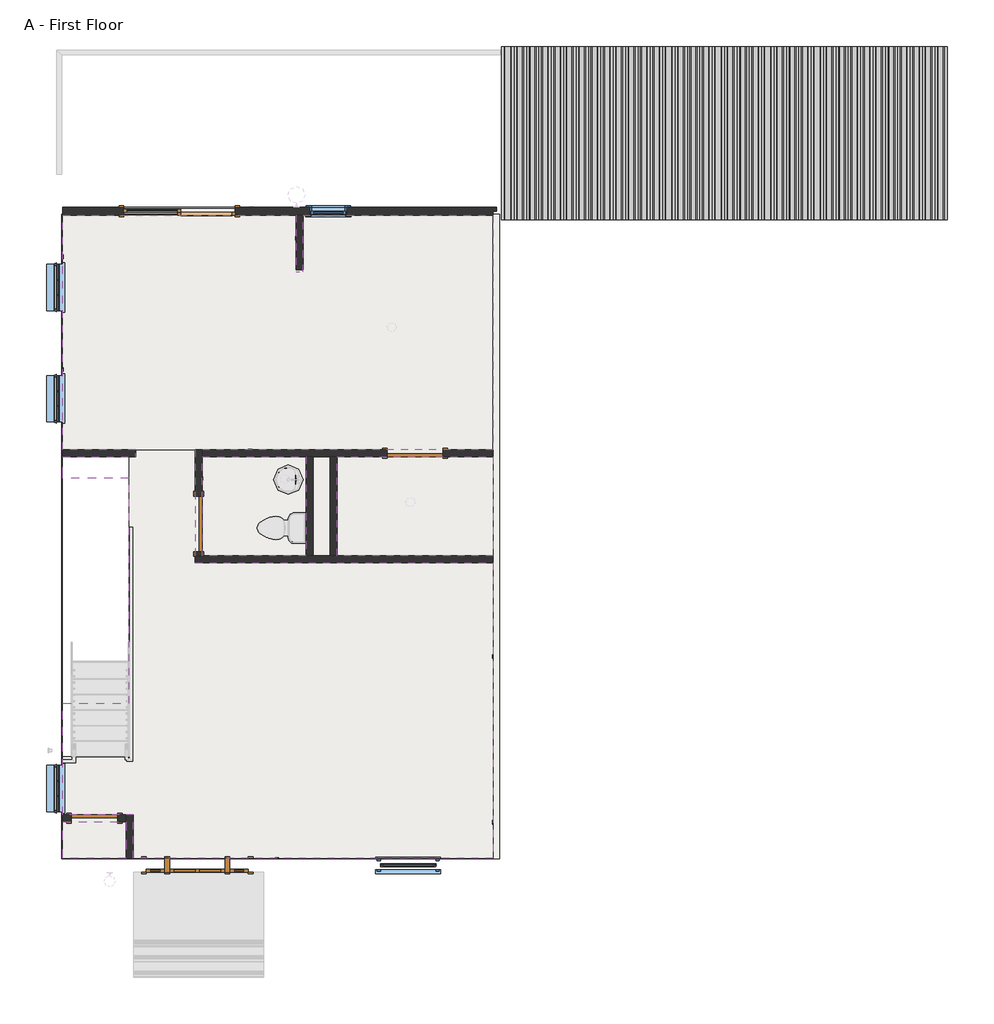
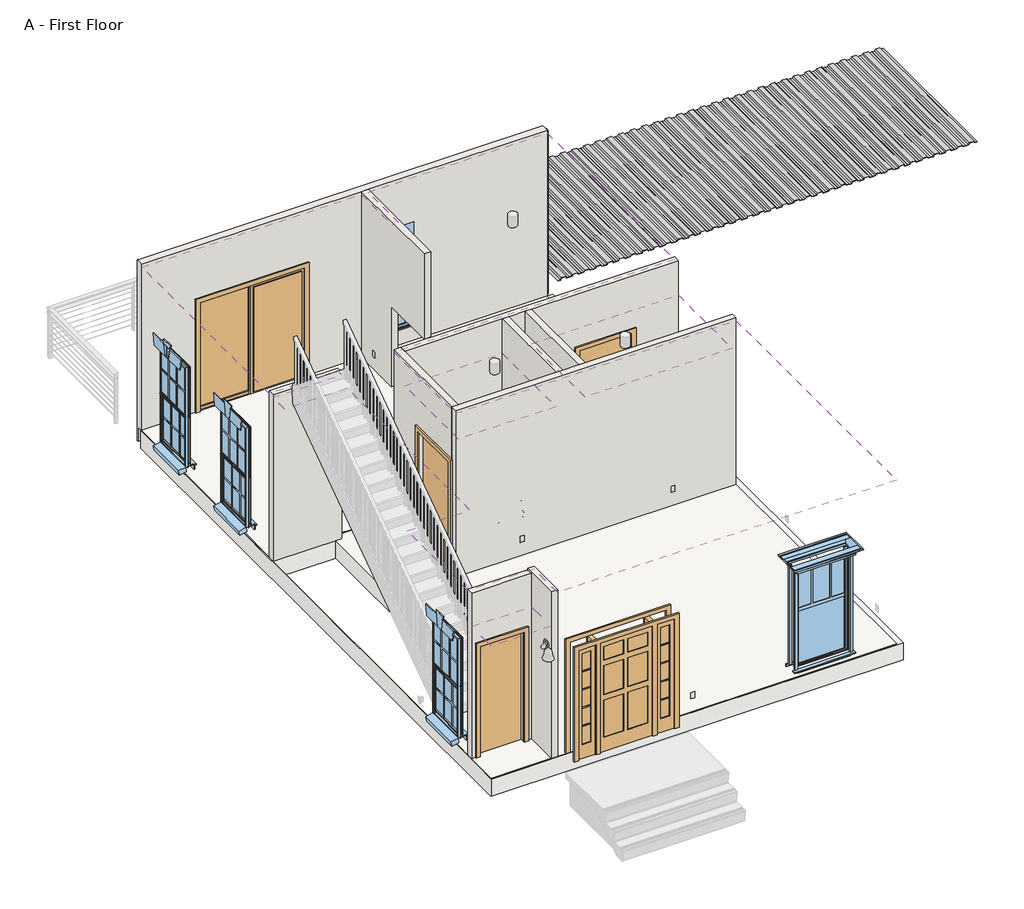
# One storey, part 1 of 3: 36 beams, 10 walls, 5 doors, 5 windows, 4 coverings, 4 slabs.
"""IFC4 building model written with IfcOpenShell, lengths in millimetres."""

from ifc_helpers import new_model, si_unit, point, frame, frame_2d, origin, origin_with_axes, place, context, project, spatial, polyline, circle_curve, trimmed, segment, composite_curve, outline, extrude, faceted_brep, transform, mapped, element, save
from components import beam_0339d567, door_cdccc48c, door_f2b275c1, door_17d80c48, door_ba367ff0, craftsman_style_single_window_l_craftsman_style_single_4874115d, window_09c4a98c, window_0bb131d8

model = new_model("IFC4")

# Units and contexts
model_context = context("Model", 3, world=origin())
ifc_project = project(units=[si_unit("LENGTHUNIT", "METRE", prefix="MILLI")], contexts=[model_context])

# Site, building, storey
site = spatial("IfcSite", under=ifc_project)
building = spatial("IfcBuilding", under=site)
storey = spatial("IfcBuildingStorey", under=building, Name="A - First Floor", Elevation=0.0)

# Beams
placement = place(None, origin())
beam_shape = beam_0339d567(model_context)
element("IfcBeam", 1, ObjectType="B-Deck_Single_Flute_3d_14388 : B-Deck_Single_Flute_3d_14388", at=placement, inside=storey, context=model_context, shape_type="MappedRepresentation", body=[
    mapped(beam_shape, transform((-3973.0379486, 4777.1460538, 290.0036934), x_axis=(0.0, -1.0, 0.0), y_axis=(1.0, 0.0, 0.0), z_axis=(0.0, 0.0, 1.0))),
])
element("IfcBeam", 2, ObjectType="B-Deck_Single_Flute_3d_14388 : B-Deck_Single_Flute_3d_14388", at=placement, inside=storey, context=model_context, shape_type="MappedRepresentation", body=[
    mapped(beam_shape, transform((-3769.8379486, 4777.1460538, 290.0036934), x_axis=(0.0, -1.0, 0.0), y_axis=(1.0, 0.0, 0.0), z_axis=(0.0, 0.0, 1.0))),
])
element("IfcBeam", 3, ObjectType="B-Deck_Single_Flute_3d_14388 : B-Deck_Single_Flute_3d_14388", at=placement, inside=storey, context=model_context, shape_type="MappedRepresentation", body=[
    mapped(beam_shape, transform((-3566.6379486, 4777.1460538, 290.0036934), x_axis=(0.0, -1.0, 0.0), y_axis=(1.0, 0.0, 0.0), z_axis=(0.0, 0.0, 1.0))),
])
element("IfcBeam", 4, ObjectType="B-Deck_Single_Flute_3d_14388 : B-Deck_Single_Flute_3d_14388", at=placement, inside=storey, context=model_context, shape_type="MappedRepresentation", body=[
    mapped(beam_shape, transform((-3363.4379486, 4777.1460538, 290.0036934), x_axis=(0.0, -1.0, 0.0), y_axis=(1.0, 0.0, 0.0), z_axis=(0.0, 0.0, 1.0))),
])
element("IfcBeam", 5, ObjectType="B-Deck_Single_Flute_3d_14388 : B-Deck_Single_Flute_3d_14388", at=placement, inside=storey, context=model_context, shape_type="MappedRepresentation", body=[
    mapped(beam_shape, transform((-3160.2379486, 4777.1460538, 290.0036934), x_axis=(0.0, -1.0, 0.0), y_axis=(1.0, 0.0, 0.0), z_axis=(0.0, 0.0, 1.0))),
])
element("IfcBeam", 6, ObjectType="B-Deck_Single_Flute_3d_14388 : B-Deck_Single_Flute_3d_14388", at=placement, inside=storey, context=model_context, shape_type="MappedRepresentation", body=[
    mapped(beam_shape, transform((-2957.0379486, 4777.1460538, 290.0036934), x_axis=(0.0, -1.0, 0.0), y_axis=(1.0, 0.0, 0.0), z_axis=(0.0, 0.0, 1.0))),
])
element("IfcBeam", 7, ObjectType="B-Deck_Single_Flute_3d_14388 : B-Deck_Single_Flute_3d_14388", at=placement, inside=storey, context=model_context, shape_type="MappedRepresentation", body=[
    mapped(beam_shape, transform((-2753.8379486, 4777.1460538, 290.0036934), x_axis=(0.0, -1.0, 0.0), y_axis=(1.0, 0.0, 0.0), z_axis=(0.0, 0.0, 1.0))),
])
element("IfcBeam", 8, ObjectType="B-Deck_Single_Flute_3d_14388 : B-Deck_Single_Flute_3d_14388", at=placement, inside=storey, context=model_context, shape_type="MappedRepresentation", body=[
    mapped(beam_shape, transform((-2550.6379486, 4777.1460538, 290.0036934), x_axis=(0.0, -1.0, 0.0), y_axis=(1.0, 0.0, 0.0), z_axis=(0.0, 0.0, 1.0))),
])
element("IfcBeam", 9, ObjectType="B-Deck_Single_Flute_3d_14388 : B-Deck_Single_Flute_3d_14388", at=placement, inside=storey, context=model_context, shape_type="MappedRepresentation", body=[
    mapped(beam_shape, transform((-2347.4379486, 4777.1460538, 290.0036934), x_axis=(0.0, -1.0, 0.0), y_axis=(1.0, 0.0, 0.0), z_axis=(0.0, 0.0, 1.0))),
])
element("IfcBeam", 10, ObjectType="B-Deck_Single_Flute_3d_14388 : B-Deck_Single_Flute_3d_14388", at=placement, inside=storey, context=model_context, shape_type="MappedRepresentation", body=[
    mapped(beam_shape, transform((-2144.2379486, 4777.1460538, 290.0036934), x_axis=(0.0, -1.0, 0.0), y_axis=(1.0, 0.0, 0.0), z_axis=(0.0, 0.0, 1.0))),
])
element("IfcBeam", 11, ObjectType="B-Deck_Single_Flute_3d_14388 : B-Deck_Single_Flute_3d_14388", at=placement, inside=storey, context=model_context, shape_type="MappedRepresentation", body=[
    mapped(beam_shape, transform((-1941.0379486, 4777.1460538, 290.0036934), x_axis=(0.0, -1.0, 0.0), y_axis=(1.0, 0.0, 0.0), z_axis=(0.0, 0.0, 1.0))),
])
element("IfcBeam", 12, ObjectType="B-Deck_Single_Flute_3d_14388 : B-Deck_Single_Flute_3d_14388", at=placement, inside=storey, context=model_context, shape_type="MappedRepresentation", body=[
    mapped(beam_shape, transform((-1737.8379486, 4777.1460538, 290.0036934), x_axis=(0.0, -1.0, 0.0), y_axis=(1.0, 0.0, 0.0), z_axis=(0.0, 0.0, 1.0))),
])
element("IfcBeam", 13, ObjectType="B-Deck_Single_Flute_3d_14388 : B-Deck_Single_Flute_3d_14388", at=placement, inside=storey, context=model_context, shape_type="MappedRepresentation", body=[
    mapped(beam_shape, transform((-1534.6379486, 4777.1460538, 290.0036934), x_axis=(0.0, -1.0, 0.0), y_axis=(1.0, 0.0, 0.0), z_axis=(0.0, 0.0, 1.0))),
])
element("IfcBeam", 14, ObjectType="B-Deck_Single_Flute_3d_14388 : B-Deck_Single_Flute_3d_14388", at=placement, inside=storey, context=model_context, shape_type="MappedRepresentation", body=[
    mapped(beam_shape, transform((-1331.4379486, 4777.1460538, 290.0036934), x_axis=(0.0, -1.0, 0.0), y_axis=(1.0, 0.0, 0.0), z_axis=(0.0, 0.0, 1.0))),
])
element("IfcBeam", 15, ObjectType="B-Deck_Single_Flute_3d_14388 : B-Deck_Single_Flute_3d_14388", at=placement, inside=storey, context=model_context, shape_type="MappedRepresentation", body=[
    mapped(beam_shape, transform((-1128.2379486, 4777.1460538, 290.0036934), x_axis=(0.0, -1.0, 0.0), y_axis=(1.0, 0.0, 0.0), z_axis=(0.0, 0.0, 1.0))),
])
element("IfcBeam", 16, ObjectType="B-Deck_Single_Flute_3d_14388 : B-Deck_Single_Flute_3d_14388", at=placement, inside=storey, context=model_context, shape_type="MappedRepresentation", body=[
    mapped(beam_shape, transform((-925.0379486, 4777.1460538, 290.0036934), x_axis=(0.0, -1.0, 0.0), y_axis=(1.0, 0.0, 0.0), z_axis=(0.0, 0.0, 1.0))),
])
element("IfcBeam", 17, ObjectType="B-Deck_Single_Flute_3d_14388 : B-Deck_Single_Flute_3d_14388", at=placement, inside=storey, context=model_context, shape_type="MappedRepresentation", body=[
    mapped(beam_shape, transform((-721.8379486, 4777.1460538, 290.0036934), x_axis=(0.0, -1.0, 0.0), y_axis=(1.0, 0.0, 0.0), z_axis=(0.0, 0.0, 1.0))),
])
element("IfcBeam", 18, ObjectType="B-Deck_Single_Flute_3d_14388 : B-Deck_Single_Flute_3d_14388", at=placement, inside=storey, context=model_context, shape_type="MappedRepresentation", body=[
    mapped(beam_shape, transform((-518.6379486, 4777.1460538, 290.0036934), x_axis=(0.0, -1.0, 0.0), y_axis=(1.0, 0.0, 0.0), z_axis=(0.0, 0.0, 1.0))),
])
element("IfcBeam", 19, ObjectType="B-Deck_Single_Flute_3d_14388 : B-Deck_Single_Flute_3d_14388", at=placement, inside=storey, context=model_context, shape_type="MappedRepresentation", body=[
    mapped(beam_shape, transform((-315.4379486, 4777.1460538, 290.0036934), x_axis=(0.0, -1.0, 0.0), y_axis=(1.0, 0.0, 0.0), z_axis=(0.0, 0.0, 1.0))),
])
element("IfcBeam", 20, ObjectType="B-Deck_Single_Flute_3d_14388 : B-Deck_Single_Flute_3d_14388", at=placement, inside=storey, context=model_context, shape_type="MappedRepresentation", body=[
    mapped(beam_shape, transform((-112.2379486, 4777.1460538, 290.0036934), x_axis=(0.0, -1.0, 0.0), y_axis=(1.0, 0.0, 0.0), z_axis=(0.0, 0.0, 1.0))),
])
element("IfcBeam", 21, ObjectType="B-Deck_Single_Flute_3d_14388 : B-Deck_Single_Flute_3d_14388", at=placement, inside=storey, context=model_context, shape_type="MappedRepresentation", body=[
    mapped(beam_shape, transform((90.9620514, 4777.1460538, 290.0036934), x_axis=(0.0, -1.0, 0.0), y_axis=(1.0, 0.0, 0.0), z_axis=(0.0, 0.0, 1.0))),
])
element("IfcBeam", 22, ObjectType="B-Deck_Single_Flute_3d_14388 : B-Deck_Single_Flute_3d_14388", at=placement, inside=storey, context=model_context, shape_type="MappedRepresentation", body=[
    mapped(beam_shape, transform((294.1620514, 4777.1460538, 290.0036934), x_axis=(0.0, -1.0, 0.0), y_axis=(1.0, 0.0, 0.0), z_axis=(0.0, 0.0, 1.0))),
])
element("IfcBeam", 23, ObjectType="B-Deck_Single_Flute_3d_14388 : B-Deck_Single_Flute_3d_14388", at=placement, inside=storey, context=model_context, shape_type="MappedRepresentation", body=[
    mapped(beam_shape, transform((497.3620514, 4777.1460538, 290.0036934), x_axis=(0.0, -1.0, 0.0), y_axis=(1.0, 0.0, 0.0), z_axis=(0.0, 0.0, 1.0))),
])
element("IfcBeam", 24, ObjectType="B-Deck_Single_Flute_3d_14388 : B-Deck_Single_Flute_3d_14388", at=placement, inside=storey, context=model_context, shape_type="MappedRepresentation", body=[
    mapped(beam_shape, transform((700.5620514, 4777.1460538, 290.0036934), x_axis=(0.0, -1.0, 0.0), y_axis=(1.0, 0.0, 0.0), z_axis=(0.0, 0.0, 1.0))),
])
element("IfcBeam", 25, ObjectType="B-Deck_Single_Flute_3d_14388 : B-Deck_Single_Flute_3d_14388", at=placement, inside=storey, context=model_context, shape_type="MappedRepresentation", body=[
    mapped(beam_shape, transform((903.7620514, 4777.1460538, 290.0036934), x_axis=(0.0, -1.0, 0.0), y_axis=(1.0, 0.0, 0.0), z_axis=(0.0, 0.0, 1.0))),
])
element("IfcBeam", 26, ObjectType="B-Deck_Single_Flute_3d_14388 : B-Deck_Single_Flute_3d_14388", at=placement, inside=storey, context=model_context, shape_type="MappedRepresentation", body=[
    mapped(beam_shape, transform((1106.9620514, 4777.1460538, 290.0036934), x_axis=(0.0, -1.0, 0.0), y_axis=(1.0, 0.0, 0.0), z_axis=(0.0, 0.0, 1.0))),
])
element("IfcBeam", 27, ObjectType="B-Deck_Single_Flute_3d_14388 : B-Deck_Single_Flute_3d_14388", at=placement, inside=storey, context=model_context, shape_type="MappedRepresentation", body=[
    mapped(beam_shape, transform((1310.1620514, 4777.1460538, 290.0036934), x_axis=(0.0, -1.0, 0.0), y_axis=(1.0, 0.0, 0.0), z_axis=(0.0, 0.0, 1.0))),
])
element("IfcBeam", 28, ObjectType="B-Deck_Single_Flute_3d_14388 : B-Deck_Single_Flute_3d_14388", at=placement, inside=storey, context=model_context, shape_type="MappedRepresentation", body=[
    mapped(beam_shape, transform((1513.3620514, 4777.1460538, 290.0036934), x_axis=(0.0, -1.0, 0.0), y_axis=(1.0, 0.0, 0.0), z_axis=(0.0, 0.0, 1.0))),
])
element("IfcBeam", 29, ObjectType="B-Deck_Single_Flute_3d_14388 : B-Deck_Single_Flute_3d_14388", at=placement, inside=storey, context=model_context, shape_type="MappedRepresentation", body=[
    mapped(beam_shape, transform((1716.5620514, 4777.1460538, 290.0036934), x_axis=(0.0, -1.0, 0.0), y_axis=(1.0, 0.0, 0.0), z_axis=(0.0, 0.0, 1.0))),
])
element("IfcBeam", 30, ObjectType="B-Deck_Single_Flute_3d_14388 : B-Deck_Single_Flute_3d_14388", at=placement, inside=storey, context=model_context, shape_type="MappedRepresentation", body=[
    mapped(beam_shape, transform((1919.7620514, 4777.1460538, 290.0036934), x_axis=(0.0, -1.0, 0.0), y_axis=(1.0, 0.0, 0.0), z_axis=(0.0, 0.0, 1.0))),
])
element("IfcBeam", 31, ObjectType="B-Deck_Single_Flute_3d_14388 : B-Deck_Single_Flute_3d_14388", at=placement, inside=storey, context=model_context, shape_type="MappedRepresentation", body=[
    mapped(beam_shape, transform((2122.9620514, 4777.1460538, 290.0036934), x_axis=(0.0, -1.0, 0.0), y_axis=(1.0, 0.0, 0.0), z_axis=(0.0, 0.0, 1.0))),
])
element("IfcBeam", 32, ObjectType="B-Deck_Single_Flute_3d_14388 : B-Deck_Single_Flute_3d_14388", at=placement, inside=storey, context=model_context, shape_type="MappedRepresentation", body=[
    mapped(beam_shape, transform((2326.1620514, 4777.1460538, 290.0036934), x_axis=(0.0, -1.0, 0.0), y_axis=(1.0, 0.0, 0.0), z_axis=(0.0, 0.0, 1.0))),
])
element("IfcBeam", 33, ObjectType="B-Deck_Single_Flute_3d_14388 : B-Deck_Single_Flute_3d_14388", at=placement, inside=storey, context=model_context, shape_type="MappedRepresentation", body=[
    mapped(beam_shape, transform((2529.3620514, 4777.1460538, 290.0036934), x_axis=(0.0, -1.0, 0.0), y_axis=(1.0, 0.0, 0.0), z_axis=(0.0, 0.0, 1.0))),
])
element("IfcBeam", 34, ObjectType="B-Deck_Single_Flute_3d_14388 : B-Deck_Single_Flute_3d_14388", at=placement, inside=storey, context=model_context, shape_type="MappedRepresentation", body=[
    mapped(beam_shape, transform((2732.5620514, 4777.1460538, 290.0036934), x_axis=(0.0, -1.0, 0.0), y_axis=(1.0, 0.0, 0.0), z_axis=(0.0, 0.0, 1.0))),
])
element("IfcBeam", 35, ObjectType="B-Deck_Single_Flute_3d_14388 : B-Deck_Single_Flute_3d_14388", at=placement, inside=storey, context=model_context, shape_type="MappedRepresentation", body=[
    mapped(beam_shape, transform((2935.7620514, 4777.1460538, 290.0036934), x_axis=(0.0, -1.0, 0.0), y_axis=(1.0, 0.0, 0.0), z_axis=(0.0, 0.0, 1.0))),
])
element("IfcBeam", 36, ObjectType="B-Deck_Single_Flute_3d_14388 : B-Deck_Single_Flute_3d_14388", at=placement, inside=storey, context=model_context, shape_type="MappedRepresentation", body=[
    mapped(beam_shape, transform((3138.9620514, 4777.1460538, 290.0036934), x_axis=(0.0, -1.0, 0.0), y_axis=(1.0, 0.0, 0.0), z_axis=(0.0, 0.0, 1.0))),
])

# Coverings
element("IfcCovering", 37, ObjectType="GWB on Furring", at=placement, inside=storey, context=model_context, shape_type="SweptSolid", body=[
    extrude(outline(polyline([(-7287.7379486, -2157.0539462), (-8989.5379486, -2157.0539462), (-8989.5379486, -531.4539462), (-7287.7379486, -531.4539462), (-7287.7379486, -2157.0539462)]), holes=[composite_curve([segment(trimmed(circle_curve(frame_2d((-7630.6379486, -899.7539462)), 76.2), [point((-7706.8379486, -899.7539462))], [point((-7554.4379486, -899.7539462))], True, "CARTESIAN"), True, "CONTINUOUS"), segment(trimmed(circle_curve(frame_2d((-7630.6379486, -899.7539462)), 76.2), [point((-7554.4379486, -899.7539462))], [point((-7706.8379486, -899.7539462))], True, "CARTESIAN"), True, "CONTINUOUS")], self_intersect=False)]), frame((0.0, 0.0, 2438.4), z_axis=(0.0, 0.0, 1.0), x_axis=(1.0, 0.0, 0.0)), (0.0, 0.0, 1.0), 31.75),
])
element("IfcCovering", 38, ObjectType="GWB on Furring", at=placement, inside=storey, context=model_context, shape_type="SweptSolid", body=[
    extrude(outline(polyline([(-4217.5129486, -531.4539462), (-4217.5129486, -2157.0539462), (-6779.7379486, -2157.0539462), (-6779.7379486, -531.4539462), (-4217.5129486, -531.4539462)]), holes=[composite_curve([segment(trimmed(circle_curve(frame_2d((-5573.2379486, -1280.7539462)), 76.2), [point((-5649.4379486, -1280.7539462))], [point((-5497.0379486, -1280.7539462))], True, "CARTESIAN"), True, "CONTINUOUS"), segment(trimmed(circle_curve(frame_2d((-5573.2379486, -1280.7539462)), 76.2), [point((-5497.0379486, -1280.7539462))], [point((-5649.4379486, -1280.7539462))], True, "CARTESIAN"), True, "CONTINUOUS")], self_intersect=False)]), frame((0.0, 0.0, 2438.4), z_axis=(0.0, 0.0, 1.0), x_axis=(1.0, 0.0, 0.0)), (0.0, 0.0, 1.0), 31.75),
])
element("IfcCovering", 39, ObjectType="GWB on Furring", at=placement, inside=storey, context=model_context, shape_type="SweptSolid", body=[
    extrude(outline(polyline([(-9103.8379486, -2271.3539462), (-4217.5129486, -2271.3539462), (-4217.5129486, -7122.7539462), (-10126.1879486, -7122.7539462), (-10126.1879486, -6411.5539462), (-11281.8879486, -6411.5539462), (-11281.8879486, -4582.7539462), (-10189.6879486, -4582.7539462), (-10189.6879486, -887.0539462), (-11281.8879486, -887.0539462), (-11281.8879486, -531.4539462), (-10084.9129486, -531.4539462), (-10084.9129486, -417.1539462), (-11281.8879486, -417.1539462), (-11281.8879486, 3430.9460538), (-7452.8379486, 3430.9460538), (-7452.8379486, 2503.8460538), (-7338.5379486, 2503.8460538), (-7338.5379486, 3430.9460538), (-4217.5129486, 3430.9460538), (-4217.5129486, -417.1539462), (-9103.8379486, -417.1539462), (-9103.8379486, -2271.3539462)]), holes=[composite_curve([segment(trimmed(circle_curve(frame_2d((-5878.0379486, 1592.6210538)), 76.2), [point((-5954.2379486, 1592.6210538))], [point((-5801.8379486, 1592.6210538))], True, "CARTESIAN"), True, "CONTINUOUS"), segment(trimmed(circle_curve(frame_2d((-5878.0379486, 1592.6210538)), 76.2), [point((-5801.8379486, 1592.6210538))], [point((-5954.2379486, 1592.6210538))], True, "CARTESIAN"), True, "CONTINUOUS")], self_intersect=False)]), frame((0.0, 0.0, 3022.6), z_axis=(0.0, 0.0, 1.0), x_axis=(1.0, 0.0, 0.0)), (0.0, 0.0, 1.0), 31.75),
])
element("IfcCovering", 40, ObjectType="GWB on Furring", at=placement, inside=storey, context=model_context, shape_type="SweptSolid", body=[
    extrude(outline(polyline([(-10240.4879486, -6525.8539462), (-10240.4879486, -7122.7539462), (-11281.8879486, -7122.7539462), (-11281.8879486, -6525.8539462), (-10240.4879486, -6525.8539462)])), frame((0.0, 0.0, 2438.4), z_axis=(0.0, 0.0, 1.0), x_axis=(1.0, 0.0, 0.0)), (0.0, 0.0, 1.0), 31.75),
])

# Doors
door_shape = door_cdccc48c(model_context)
element("IfcDoor", 41, ObjectType="Door-Double-Sliding : 72\" x 80\"", at=placement, inside=storey, context=model_context, shape_type="MappedRepresentation", body=[
    mapped(door_shape, transform((-9367.3629486, 3624.6210538, 0.0), x_axis=(-1.0, 0.0, 0.0), y_axis=(0.0, -1.0, 0.0), z_axis=(0.0, 0.0, 1.0))),
])
door_2_shape = door_f2b275c1(model_context)
element("IfcDoor", 42, ObjectType="Single-Flush : 30\" x 80\"", at=placement, inside=storey, context=model_context, shape_type="MappedRepresentation", body=[
    mapped(door_2_shape, transform((-10761.1879486, -6468.7039462, 0.0), x_axis=(-1.0, 0.0, 0.0), y_axis=(0.0, -1.0, 0.0), z_axis=(0.0, 0.0, 1.0))),
])
door_3_shape = door_17d80c48(model_context)
element("IfcDoor", 43, ObjectType="Single-Flush : 36\" x 80\"", at=placement, inside=storey, context=model_context, shape_type="MappedRepresentation", body=[
    mapped(door_3_shape, transform((-9046.6879486, -1636.3539462, 0.0), x_axis=(0.0, -1.0, 0.0), y_axis=(1.0, 0.0, 0.0), z_axis=(0.0, 0.0, 1.0))),
])
element("IfcDoor", 44, ObjectType="Single-Flush : 36\" x 80\"", at=placement, inside=storey, context=model_context, shape_type="MappedRepresentation", body=[
    mapped(door_3_shape, transform((-5497.0379486, -474.3039462, 0.0), x_axis=(-1.0, 0.0, 0.0), y_axis=(0.0, -1.0, 0.0), z_axis=(0.0, 0.0, 1.0))),
])
door_4_shape = door_ba367ff0(model_context)
element("IfcDoor", 45, ObjectType="Single-Raised Panel with Sidelights : 36\" x 80\" 2", at=placement, inside=storey, context=model_context, shape_type="MappedRepresentation", body=[
    mapped(door_4_shape, transform((-9072.0879486, -7238.6414462, 0.0), x_axis=(-1.0, 0.0, 0.0), y_axis=(0.0, -1.0, 0.0), z_axis=(0.0, 0.0, 1.0))),
])

# Slabs
element("IfcSlab", 46, ObjectType="Wood Truss  Joist 12\"", at=placement, inside=storey, context=model_context, shape_type="Brep", body=[
    faceted_brep([(-4112.7379486, 3443.6460538, -320.675), (-4112.7379486, -7122.7539462, -320.675), (-4112.7379486, -7135.4539462, -320.675), (-11294.5879486, -7135.4539462, -320.675), (-11294.5879486, -7122.7539462, -320.675), (-11294.5879486, 3443.6460538, -320.675), (-11281.8879486, 3443.6460538, -320.675), (-4217.5129486, 3443.6460538, -320.675), (-11142.1879486, -5332.0539462, -320.675), (-10189.6879486, -5332.0539462, -320.675), (-10189.6879486, -531.4539462, -320.675), (-11281.8879486, -531.4539462, -320.675), (-11281.8879486, -5459.0539462, -320.675), (-11142.1879486, -5459.0539462, -320.675), (-4112.7379486, -7135.4539462, 0.0), (-4112.7379486, -7122.7539462, 0.0), (-4112.7379486, 3443.6460538, 0.0), (-4217.5129486, 3443.6460538, 0.0), (-11281.8879486, 3443.6460538, 0.0), (-11294.5879486, 3443.6460538, 0.0), (-11294.5879486, -7122.7539462, 0.0), (-11294.5879486, -7135.4539462, 0.0), (-9910.2879486, -7135.4539462, 0.0), (-8233.8879486, -7135.4539462, 0.0), (-10189.6879486, -5332.0539462, 0.0), (-11142.1879486, -5332.0539462, 0.0), (-11142.1879486, -5459.0539462, 0.0), (-11281.8879486, -5459.0539462, 0.0), (-11281.8879486, -531.4539462, 0.0), (-10189.6879486, -531.4539462, 0.0)], [[[0, 1, 2, 3, 4, 5, 6, 7], [8, 9, 10, 11, 12, 13]], [[14, 15, 16, 17, 18, 19, 20, 21, 22, 23], [24, 25, 26, 27, 28, 29]], [[2, 1, 0, 16, 15, 14]], [[3, 2, 14, 23, 22, 21]], [[5, 4, 3, 21, 20, 19]], [[0, 7, 6, 5, 19, 18, 17, 16]], [[8, 25, 24, 9]], [[9, 24, 29, 10]], [[10, 29, 28, 11]], [[11, 28, 27, 12]], [[12, 27, 26, 13]], [[25, 8, 13, 26]]]),
])
element("IfcSlab", 47, ObjectType="Carpet Finish - 1/8\"", at=placement, inside=storey, context=model_context, shape_type="SweptSolid", body=[
    extrude(outline(polyline([(-10084.9129486, -531.4539462), (-10084.9129486, -417.1539462), (-9103.8379486, -417.1539462), (-9103.8379486, -1179.1539462), (-8989.5379486, -1179.1539462), (-8989.5379486, -2093.5539462), (-9103.8379486, -2093.5539462), (-9103.8379486, -2271.3539462), (-4217.5129486, -2271.3539462), (-4217.5129486, -7122.7539462), (-10126.1879486, -7122.7539462), (-10126.1879486, -6411.5539462), (-10380.1879486, -6411.5539462), (-10380.1879486, -6525.8539462), (-10240.4879486, -6525.8539462), (-10240.4879486, -7122.7539462), (-11281.8879486, -7122.7539462), (-11281.8879486, -6525.8539462), (-11142.1879486, -6525.8539462), (-11142.1879486, -6411.5539462), (-11281.8879486, -6411.5539462), (-11281.8879486, -5459.0539462), (-11142.1879486, -5459.0539462), (-11142.1879486, -5332.0539462), (-10189.6879486, -5332.0539462), (-10189.6879486, -531.4539462), (-10084.9129486, -531.4539462)])), origin_with_axes(), (0.0, 0.0, 1.0), 3.175),
])
element("IfcSlab", 48, ObjectType="Ceramic Tile - 3/4\"", at=placement, inside=storey, context=model_context, shape_type="SweptSolid", body=[
    extrude(outline(polyline([(-11281.8879486, -417.1539462), (-11281.8879486, 3430.9460538), (-7452.8379486, 3430.9460538), (-7452.8379486, 2659.4210538), (-7324.1464925, 2659.4210538), (-7324.1464925, 3532.5460538), (-4225.3464925, 3532.5460538), (-4225.3464925, -429.8539462), (-5038.1464925, -429.8539462), (-5038.1464925, -531.4539462), (-4217.5129486, -531.4539462), (-4217.5129486, -2157.0539462), (-6779.7379486, -2157.0539462), (-6779.7379486, -531.4539462), (-5954.2379486, -531.4539462), (-5954.2379486, -417.1539462), (-11281.8879486, -417.1539462)])), origin_with_axes(), (0.0, 0.0, 1.0), 19.05),
])
element("IfcSlab", 49, ObjectType="Ceramic Tile - 3/4\"", at=placement, inside=storey, context=model_context, shape_type="SweptSolid", body=[
    extrude(outline(polyline([(-7287.7379486, -531.4539462), (-7287.7379486, -2157.0539462), (-8989.5379486, -2157.0539462), (-8989.5379486, -531.4539462), (-7287.7379486, -531.4539462)])), origin_with_axes(), (0.0, 0.0, 1.0), 19.05),
])

# Walls
element("IfcWall", 50, ObjectType="Exterior - Wood Siding on Wood Stud", at=placement, inside=storey, context=model_context, shape_type="Brep", body=[
    faceted_brep([(-4217.5129486, 3430.9460538, 3073.4), (-7338.5379486, 3430.9460538, 3073.4), (-7452.8379486, 3430.9460538, 3073.4), (-11281.8879486, 3430.9460538, 3073.4), (-11281.8879486, 3430.9460538, 0.0), (-10281.7629486, 3430.9460538, 0.0), (-10281.7629486, 3430.9460538, 2032.0), (-8452.9629486, 3430.9460538, 2032.0), (-8452.9629486, 3430.9460538, 0.0), (-7452.8379486, 3430.9460538, 0.0), (-7338.5379486, 3430.9460538, 0.0), (-4217.5129486, 3430.9460538, 0.0), (-4217.5129486, 3430.9460538, 3003.55), (-4217.5129486, 3430.9460538, 3051.175), (-7224.2379486, 3430.9460538, 2133.6), (-6614.6379486, 3430.9460538, 2133.6), (-6614.6379486, 3430.9460538, 304.8), (-7224.2379486, 3430.9460538, 304.8), (-11281.8879486, 3564.2960538, 3073.4), (-11262.8379486, 3564.2960538, 3073.4), (-4217.5129486, 3564.2960538, 3073.4), (-4217.5129486, 3564.2960538, 3003.55), (-4157.1879486, 3564.2960538, 3003.55), (-4157.1879486, 3564.2960538, 304.8), (-4157.1879486, 3564.2960538, -258.7625), (-11281.8879486, 3564.2960538, -258.7625), (-11281.8879486, 3564.2960538, 0.0), (-11281.8879486, 3564.2960538, 3051.175), (-8452.9629486, 3564.2960538, 0.0), (-8452.9629486, 3564.2960538, 2032.0), (-10281.7629486, 3564.2960538, 2032.0), (-10281.7629486, 3564.2960538, 0.0), (-7224.2379486, 3564.2960538, 2133.6), (-7224.2379486, 3564.2960538, 304.8), (-6614.6379486, 3564.2960538, 304.8), (-6614.6379486, 3564.2960538, 2133.6), (-4157.1879486, 3497.6210538, 0.0), (-4217.5129486, 3497.6210538, 0.0), (-4217.5129486, 3443.6460538, 0.0), (-8452.9629486, 3545.2460538, 0.0), (-4157.1879486, 3545.2460538, 0.0), (-11281.8879486, 3443.6460538, 0.0), (-11281.8879486, 3497.6210538, 0.0), (-11281.8879486, 3545.2460538, 0.0), (-10281.7629486, 3545.2460538, 0.0), (-11281.8879486, 3545.2460538, -258.7625), (-4157.1879486, 3545.2460538, -258.7625), (-4217.5129486, 3497.6210538, 609.6), (-4217.5129486, 3497.6210538, 3003.55), (-4157.1879486, 3497.6210538, 3003.55), (-4157.1879486, 3497.6210538, 609.6)], [[[0, 1, 2, 3, 4, 5, 6, 7, 8, 9, 10, 11, 12, 13], [14, 15, 16, 17]], [[18, 19, 20, 21, 22, 23, 24, 25, 26, 27], [28, 29, 30, 31], [32, 33, 34, 35]], [[3, 2, 1, 0, 20, 19, 18]], [[36, 37, 38, 11, 10, 9, 8, 39, 40]], [[4, 41, 42, 43, 44, 5]], [[45, 46, 40, 39, 44, 43]], [[7, 29, 28, 39, 8]], [[39, 28, 31, 44]], [[44, 31, 30, 6, 5]], [[29, 7, 6, 30]], [[33, 32, 14, 17]], [[34, 33, 17, 16]], [[35, 34, 16, 15]], [[32, 35, 15, 14]], [[20, 0, 13, 12, 11, 38, 37, 47, 48, 21]], [[4, 3, 18, 27, 26, 25, 45, 43, 42, 41]], [[25, 24, 46, 45]], [[22, 21, 48, 49]], [[37, 36, 50, 49, 48, 47]], [[49, 50, 36, 40, 46, 24, 23, 22]]]),
])
element("IfcWall", 51, ObjectType="Interior - 4 1/2\" Partition", at=placement, inside=storey, context=model_context, shape_type="Brep", body=[
    faceted_brep([(-9103.8379486, -2271.3539462, 0.0), (-4217.5129486, -2271.3539462, 0.0), (-4217.5129486, -2271.3539462, 3073.4), (-9103.8379486, -2271.3539462, 3073.4), (-9103.8379486, -2157.0539462, 0.0), (-9103.8379486, -2157.0539462, 3073.4), (-8989.5379486, -2157.0539462, 3073.4), (-7287.7379486, -2157.0539462, 3073.4), (-7173.4379486, -2157.0539462, 3073.4), (-6894.0379486, -2157.0539462, 3073.4), (-6779.7379486, -2157.0539462, 3073.4), (-4217.5129486, -2157.0539462, 3073.4), (-4217.5129486, -2157.0539462, 0.0), (-6779.7379486, -2157.0539462, 0.0), (-6894.0379486, -2157.0539462, 0.0), (-7173.4379486, -2157.0539462, 0.0), (-7287.7379486, -2157.0539462, 0.0), (-8989.5379486, -2157.0539462, 0.0)], [[[0, 1, 2, 3]], [[4, 5, 6, 7, 8, 9, 10, 11, 12, 13, 14, 15, 16, 17]], [[1, 0, 4, 17, 16, 15, 14, 13, 12]], [[3, 2, 11, 10, 9, 8, 7, 6, 5]], [[2, 1, 12, 11]], [[0, 3, 5, 4]]]),
])
element("IfcWall", 52, ObjectType="Interior - 4 1/2\" Partition", at=placement, inside=storey, context=model_context, shape_type="SweptSolid", body=[
    extrude(outline(polyline([(-10084.9129486, -531.4539462), (-11281.8879486, -531.4539462), (-11281.8879486, -417.1539462), (-10084.9129486, -417.1539462), (-10084.9129486, -531.4539462)])), origin_with_axes(), (0.0, 0.0, 1.0), 3073.4),
])
element("IfcWall", 53, ObjectType="Interior - 4 1/2\" Partition", at=placement, inside=storey, context=model_context, shape_type="SweptSolid", body=[
    extrude(outline(polyline([(3430.9460538, 0.0), (2532.4210538, 0.0), (2532.4210538, 1500.0), (1542.8460538, 1500.0), (1542.8460538, 3073.4), (3430.9460538, 3073.4), (3430.9460538, 0.0)])), frame((-7452.8379486, 0.0, 0.0), z_axis=(1.0, 0.0, 0.0), x_axis=(0.0, 1.0, 0.0)), (0.0, 0.0, 1.0), 114.3),
])
element("IfcWall", 54, ObjectType="Interior - 4 1/2\" Partition", at=placement, inside=storey, context=model_context, shape_type="SweptSolid", body=[
    extrude(outline(polyline([(-6894.0379486, -2157.0539462), (-6894.0379486, -531.4539462), (-6779.7379486, -531.4539462), (-6779.7379486, -2157.0539462), (-6894.0379486, -2157.0539462)])), origin_with_axes(), (0.0, 0.0, 1.0), 3073.4),
])
element("IfcWall", 55, ObjectType="Interior - 4 1/2\" Partition", at=placement, inside=storey, context=model_context, shape_type="SweptSolid", body=[
    extrude(outline(polyline([(-7287.7379486, -2157.0539462), (-7287.7379486, -531.4539462), (-7173.4379486, -531.4539462), (-7173.4379486, -2157.0539462), (-7287.7379486, -2157.0539462)])), origin_with_axes(), (0.0, 0.0, 1.0), 3073.4),
])
element("IfcWall", 56, ObjectType="Interior - 4 1/2\" Partition", at=placement, inside=storey, context=model_context, shape_type="Brep", body=[
    faceted_brep([(-9103.8379486, -2093.5539462, 2032.0), (-9103.8379486, -2093.5539462, 0.0), (-9103.8379486, -2157.0539462, 0.0), (-9103.8379486, -2157.0539462, 3073.4), (-9103.8379486, -417.1539462, 3073.4), (-9103.8379486, -417.1539462, 0.0), (-9103.8379486, -1179.1539462, 0.0), (-9103.8379486, -1179.1539462, 2032.0), (-8989.5379486, -2157.0539462, 0.0), (-8989.5379486, -2093.5539462, 0.0), (-8989.5379486, -2093.5539462, 2032.0), (-8989.5379486, -1179.1539462, 2032.0), (-8989.5379486, -1179.1539462, 0.0), (-8989.5379486, -531.4539462, 0.0), (-8989.5379486, -417.1539462, 0.0), (-8989.5379486, -417.1539462, 3073.4), (-8989.5379486, -531.4539462, 3073.4), (-8989.5379486, -2157.0539462, 3073.4)], [[[0, 1, 2, 3, 4, 5, 6, 7]], [[8, 9, 10, 11, 12, 13, 14, 15, 16, 17]], [[6, 5, 14, 13, 12]], [[2, 1, 9, 8]], [[4, 3, 17, 16, 15]], [[3, 2, 8, 17]], [[5, 4, 15, 14]], [[10, 9, 1, 0]], [[11, 10, 0, 7]], [[12, 11, 7, 6]]]),
])
element("IfcWall", 57, ObjectType="Interior - 4 1/2\" Partition", at=placement, inside=storey, context=model_context, shape_type="Brep", body=[
    faceted_brep([(-10126.1879486, -7122.7539462, 0.0), (-10126.1879486, -6411.5539462, 0.0), (-10126.1879486, -6411.5539462, 3073.4), (-10126.1879486, -7122.7539462, 3073.4), (-10240.4879486, -7122.7539462, 0.0), (-10240.4879486, -7122.7539462, 3073.4), (-10240.4879486, -6411.5539462, 3073.4), (-10240.4879486, -6411.5539462, 3051.175), (-10240.4879486, -6411.5539462, 0.0), (-10240.4879486, -6525.8539462, 0.0)], [[[0, 1, 2, 3]], [[4, 5, 6, 7, 8, 9]], [[1, 0, 4, 9, 8]], [[3, 2, 6, 5]], [[0, 3, 5, 4]], [[2, 1, 8, 7, 6]]]),
])
element("IfcWall", 58, ObjectType="Interior - 4 1/2\" Partition", at=placement, inside=storey, context=model_context, shape_type="SweptSolid", body=[
    extrude(outline(polyline([(0.0, -11281.8879486), (0.0, -11142.1879486), (2032.0, -11142.1879486), (2032.0, -10380.1879486), (0.0, -10380.1879486), (0.0, -10240.4879486), (3051.175, -10240.4879486), (3051.175, -11281.8879486), (0.0, -11281.8879486)])), frame((0.0, -6525.8539462, 0.0), z_axis=(0.0, 1.0, 0.0), x_axis=(0.0, 0.0, 1.0)), (0.0, 0.0, 1.0), 114.3),
])
element("IfcWall", 59, ObjectType="Interior - 4 1/2\" Partition", at=placement, inside=storey, context=model_context, shape_type="Brep", body=[
    faceted_brep([(-8989.5379486, -531.4539462, 0.0), (-7287.7379486, -531.4539462, 0.0), (-7173.4379486, -531.4539462, 0.0), (-6894.0379486, -531.4539462, 0.0), (-6779.7379486, -531.4539462, 0.0), (-5954.2379486, -531.4539462, 0.0), (-5954.2379486, -531.4539462, 2032.0), (-5039.8379486, -531.4539462, 2032.0), (-5039.8379486, -531.4539462, 0.0), (-4217.5129486, -531.4539462, 0.0), (-4217.5129486, -531.4539462, 3073.4), (-6779.7379486, -531.4539462, 3073.4), (-6894.0379486, -531.4539462, 3073.4), (-7173.4379486, -531.4539462, 3073.4), (-7287.7379486, -531.4539462, 3073.4), (-8989.5379486, -531.4539462, 3073.4), (-5954.2379486, -417.1539462, 2032.0), (-5954.2379486, -417.1539462, 0.0), (-8989.5379486, -417.1539462, 0.0), (-8989.5379486, -417.1539462, 3073.4), (-4217.5129486, -417.1539462, 3073.4), (-4217.5129486, -417.1539462, 0.0), (-5039.8379486, -417.1539462, 0.0), (-5039.8379486, -417.1539462, 2032.0)], [[[0, 1, 2, 3, 4, 5, 6, 7, 8, 9, 10, 11, 12, 13, 14, 15]], [[16, 17, 18, 19, 20, 21, 22, 23]], [[22, 21, 9, 8]], [[18, 17, 5, 4, 3, 2, 1, 0]], [[15, 14, 13, 12, 11, 10, 20, 19]], [[10, 9, 21, 20]], [[0, 15, 19, 18]], [[6, 5, 17, 16]], [[7, 6, 16, 23]], [[8, 7, 23, 22]]]),
])

# Windows
craftsman_style_single_window_l_craftsman_style_single_shape = craftsman_style_single_window_l_craftsman_style_single_4874115d(model_context)
element("IfcWindow", 60, ObjectType="Craftsman_Style_Single_Window_L : Craftsman_Style_Single_Window_L", at=placement, inside=storey, context=model_context, shape_type="MappedRepresentation", body=[
    mapped(craftsman_style_single_window_l_craftsman_style_single_shape, transform((-5608.1629486, -7238.6414462, -609.6), x_axis=(1.0, 0.0, 0.0), y_axis=(0.0, 1.0, 0.0), z_axis=(0.0, 0.0, 1.0))),
])
window_shape = window_09c4a98c(model_context)
element("IfcWindow", 61, ObjectType="Fixed with Trim : 24\" x 72\"", at=placement, inside=storey, context=model_context, shape_type="MappedRepresentation", body=[
    mapped(window_shape, transform((-6957.5379486, 3497.6210538, 0.0), x_axis=(-1.0, 0.0, 0.0), y_axis=(0.0, -1.0, 0.0), z_axis=(0.0, 0.0, 1.0))),
])
window_2_shape = window_0bb131d8(model_context)
element("IfcWindow", 62, ObjectType="Single_Hung_Aluminum_Window_at_Brick_L : 30\"x72\"", at=placement, inside=storey, context=model_context, shape_type="MappedRepresentation", body=[
    mapped(window_2_shape, transform((-11397.7754486, -5829.3703037, -279.4), x_axis=(0.0, 1.0, 0.0), y_axis=(-1.0, 0.0, 0.0), z_axis=(0.0, 0.0, 1.0))),
])
element("IfcWindow", 63, ObjectType="Single_Hung_Aluminum_Window_at_Brick_L : 30\"x72\"", at=placement, inside=storey, context=model_context, shape_type="MappedRepresentation", body=[
    mapped(window_2_shape, transform((-11397.7754486, 571.4296963, -279.4), x_axis=(0.0, 1.0, 0.0), y_axis=(-1.0, 0.0, 0.0), z_axis=(0.0, 0.0, 1.0))),
])
element("IfcWindow", 64, ObjectType="Single_Hung_Aluminum_Window_at_Brick_L : 30\"x72\"", at=placement, inside=storey, context=model_context, shape_type="MappedRepresentation", body=[
    mapped(window_2_shape, transform((-11397.7754486, 2400.2296963, -279.4), x_axis=(0.0, 1.0, 0.0), y_axis=(-1.0, 0.0, 0.0), z_axis=(0.0, 0.0, 1.0))),
])

save(model, "model.ifc")
